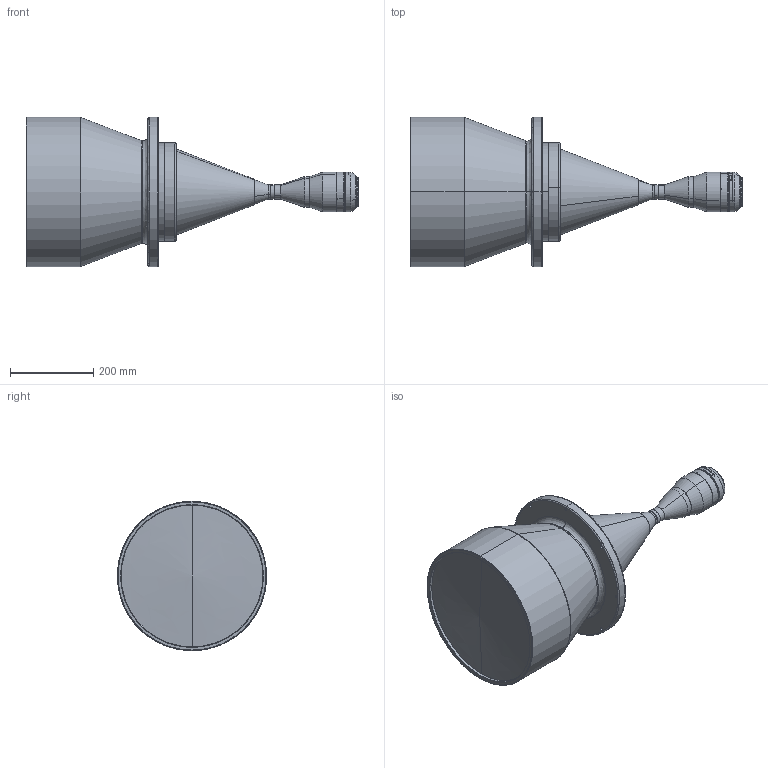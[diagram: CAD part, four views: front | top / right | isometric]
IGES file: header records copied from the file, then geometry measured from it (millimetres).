
Start section: SolidWorks IGES file using analytic representation for surfaces
Global section: file name: D:\BaiduSyncdisk\1-产品  2022-new\DTCM（2023.5.29整体拷过来）\F+B\－－ AL   可调后截距\300S-  AL-ok\DTCM16K-300S-M72-AL\3D\DTCM16K-300S-M72-AL.IGS; native system: SolidWorks 2017; preprocessor: SolidWorks 2017; author: Coolens; date: 231115.214720; units: millimetre
Bounding box: 796 x 358 x 358 mm (x, y, z)
Surface area: 738954.2 mm2 (no closed solid volume)
Topology: 0 solids, 0 shells, 150 faces, 3446 edges, 3444 vertices
Faces by surface type: revolution 108, bspline 42
